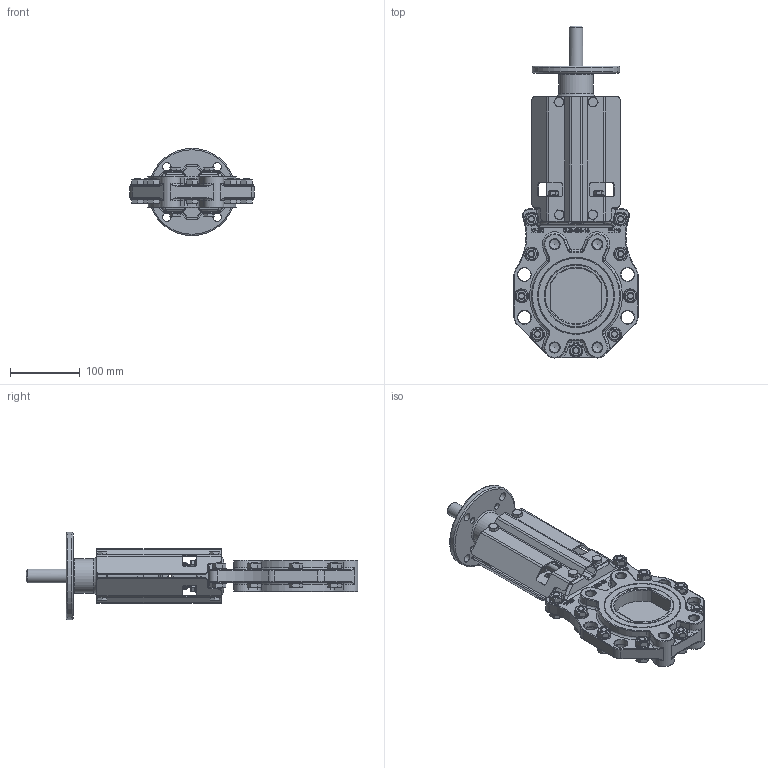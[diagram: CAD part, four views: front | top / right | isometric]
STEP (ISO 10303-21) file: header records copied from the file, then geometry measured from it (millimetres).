
FILE_DESCRIPTION(/* description */ (''),/* implementation_level */ '2;1');
FILE_NAME(/* name */ 'Rising stem knife gate valve with top flange DN80-10.stp',/* time_stamp */ '2025-04-21T17:06:07+08:00',/* author */ (''),/* organization */ (''),/* preprocessor_version */ 'ST-DEVELOPER v15',/* originating_system */ 'SIEMENS PLM Software NX 10.0',/* authorisation */ '');
FILE_SCHEMA (('AP203_CONFIGURATION_CONTROLLED_3D_DESIGN_OF_MECHANICAL_PARTS_AND_ASSEMBLIES_MIM_LF { 1 0 10303 403 2 1 2}'));
Products named in the file (1): Admi256412D81nt4
Bounding box: 177.82 x 475.41 x 125 mm (x, y, z)
Volume: 1322549 mm3; surface area: 328448 mm2
Topology: 1 solids, 23 shells, 2345 faces, 5775 edges, 3569 vertices
Faces by surface type: plane 905, cylinder 538, extrusion 257, bspline 240, cone 215, torus 162, sphere 28
Full cylindrical faces by diameter (mm): 1.7 x4, 5.2 x1, 7.323 x4, 8 x4, 8.4 x4, 8.5 x2, 9 x8, 9.188 x9, 10 x9, 10.5 x18, 11.4 x8, 12 x4, 13.8 x2, 13.835 x8, 14.5 x1, 15.4 x9, 16 x10, 19 x8, 20 x19, 25 x1, 40 x1, 50 x1, 125 x1
Entity records: 74258 total; most frequent: CARTESIAN_POINT 23345, ORIENTED_EDGE 10748, DIRECTION 9121, EDGE_CURVE 5374, VERTEX_POINT 3479, AXIS2_PLACEMENT_3D 3305, EDGE_LOOP 2849, VECTOR 2511
